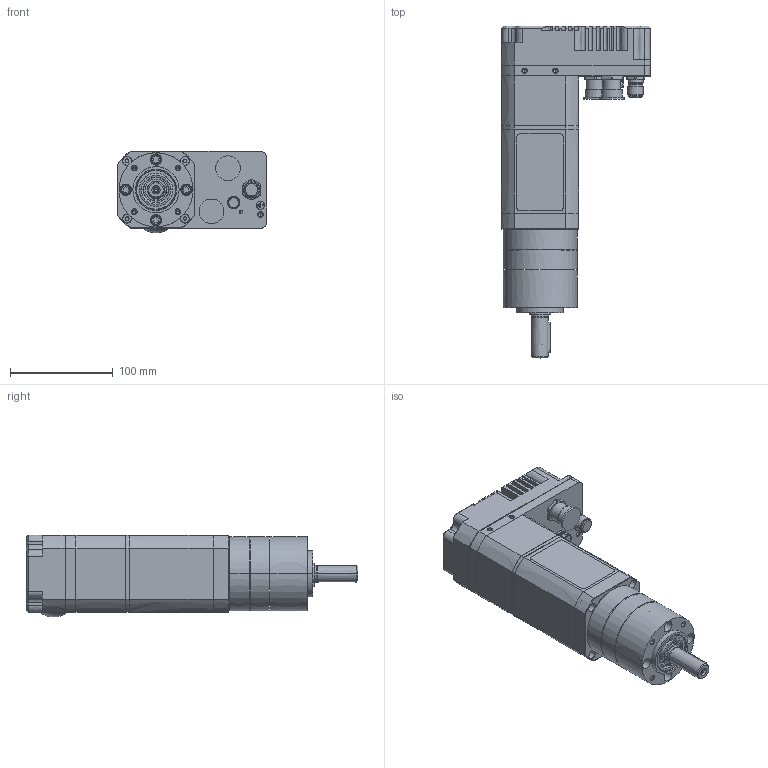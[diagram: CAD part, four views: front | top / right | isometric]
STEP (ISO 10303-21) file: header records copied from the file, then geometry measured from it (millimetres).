
FILE_DESCRIPTION((''),'2;1');
FILE_NAME('8035D1_2STAGES','2018-09-18T',('alecma1'),('CROUZET-AUTOMATISMES'),'CREO PARAMETRIC BY PTC INC, 2017170','CREO PARAMETRIC BY PTC INC, 2017170','');
FILE_SCHEMA(('AP203_CONFIGURATION_CONTROLLED_3D_DESIGN_OF_MECHANICAL_PARTS_AND_ASSEMBLIES_MIM_LF { 1 0 10303 403 2 1 2 }'));
Products named in the file (1): 8035D1_2STAGES
Bounding box: 145 x 322.9 x 79.7 mm (x, y, z)
Surface area: 155843.6 mm2 (no closed solid volume)
Topology: 0 solids, 0 shells, 774 faces, 4024 edges, 3970 vertices
Faces by surface type: bspline 736, torus 34, sphere 4
Entity records: 77251 total; most frequent: CARTESIAN_POINT 34477, DIRECTION 6218, TRIMMED_CURVE 5237, VECTOR 4357, LINE 4357, DEFINITIONAL_REPRESENTATION 3936, PCURVE 3936, COMPOSITE_CURVE_SEGMENT 3936
